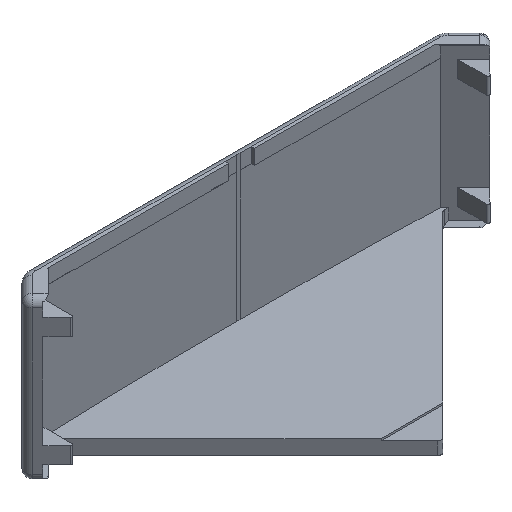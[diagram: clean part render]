
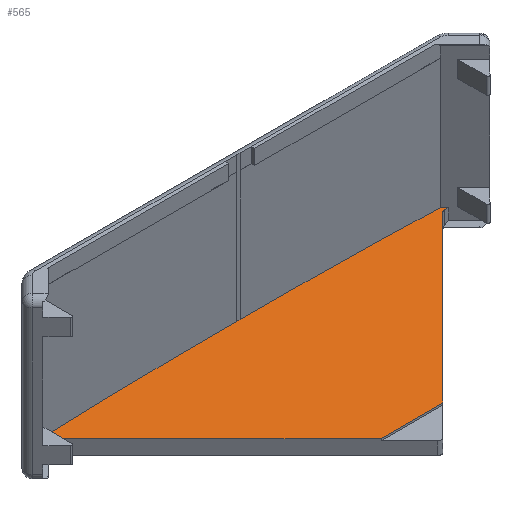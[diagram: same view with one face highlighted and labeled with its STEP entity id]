
A CAD part, isometric view. The second image highlights one B-rep face of the part: STEP entity #565.
In plain terms, the highlighted planar face has unit normal (0, 0, 1).
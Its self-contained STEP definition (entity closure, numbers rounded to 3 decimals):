
#40 = CARTESIAN_POINT ( 'NONE',  ( -53.243, 0., -17.5 ) ) ;
#55 = VECTOR ( 'NONE', #1867, 1000. ) ;
#95 = VECTOR ( 'NONE', #260, 1000. ) ;
#134 = CIRCLE ( 'NONE', #1599, 1563.085 ) ;
#143 = VERTEX_POINT ( 'NONE', #2162 ) ;
#146 = ORIENTED_EDGE ( 'NONE', *, *, #444, .F. ) ;
#156 = VECTOR ( 'NONE', #1252, 1000. ) ;
#161 = CARTESIAN_POINT ( 'NONE',  ( 0.5, 2., -17.5 ) ) ;
#168 = CARTESIAN_POINT ( 'NONE',  ( 63.128, -45., -17.5 ) ) ;
#178 = DIRECTION ( 'NONE',  ( -1., 0., 0. ) ) ;
#197 = CIRCLE ( 'NONE', #1273, 1563.085 ) ;
#209 = EDGE_CURVE ( 'NONE', #1057, #2259, #267, .T. ) ;
#215 = LINE ( 'NONE', #1357, #95 ) ;
#218 = VERTEX_POINT ( 'NONE', #1110 ) ;
#260 = DIRECTION ( 'NONE',  ( -0.707, -0.707, 0. ) ) ;
#267 = LINE ( 'NONE', #168, #845 ) ;
#310 = AXIS2_PLACEMENT_3D ( 'NONE', #562, #1851, #2207 ) ;
#324 = DIRECTION ( 'NONE',  ( 0.707, 0.707, 0. ) ) ;
#368 = CIRCLE ( 'NONE', #310, 1. ) ;
#409 = EDGE_CURVE ( 'NONE', #143, #1217, #134, .T. ) ;
#436 = DIRECTION ( 'NONE',  ( 1., 0., 0. ) ) ;
#444 = EDGE_CURVE ( 'NONE', #950, #2263, #197, .T. ) ;
#454 = CARTESIAN_POINT ( 'NONE',  ( 8.828, -45., -17.5 ) ) ;
#458 = CIRCLE ( 'NONE', #2155, 1. ) ;
#462 = ORIENTED_EDGE ( 'NONE', *, *, #2291, .T. ) ;
#504 = VECTOR ( 'NONE', #2297, 1000. ) ;
#507 = CARTESIAN_POINT ( 'NONE',  ( 55.3, 0., -17.5 ) ) ;
#514 = CARTESIAN_POINT ( 'NONE',  ( -54.3, 0., -17.5 ) ) ;
#562 = CARTESIAN_POINT ( 'NONE',  ( 54.243, -1., -17.5 ) ) ;
#565 = ADVANCED_FACE ( 'NONE', ( #1288 ), #1748, .F. ) ;
#570 = DIRECTION ( 'NONE',  ( 0., 0., -1. ) ) ;
#577 = EDGE_CURVE ( 'NONE', #2263, #1640, #1494, .T. ) ;
#580 = ORIENTED_EDGE ( 'NONE', *, *, #1382, .T. ) ;
#645 = LINE ( 'NONE', #1965, #156 ) ;
#650 = AXIS2_PLACEMENT_3D ( 'NONE', #1394, #1009, #662 ) ;
#662 = DIRECTION ( 'NONE',  ( -1., 0., 0. ) ) ;
#667 = CARTESIAN_POINT ( 'NONE',  ( 55.3, 0., -17.5 ) ) ;
#695 = CARTESIAN_POINT ( 'NONE',  ( 8.828, -45., -17.5 ) ) ;
#703 = LINE ( 'NONE', #695, #959 ) ;
#713 = ORIENTED_EDGE ( 'NONE', *, *, #209, .F. ) ;
#721 = EDGE_CURVE ( 'NONE', #1057, #1369, #703, .T. ) ;
#806 = EDGE_CURVE ( 'NONE', #1499, #1416, #458, .T. ) ;
#845 = VECTOR ( 'NONE', #178, 1000. ) ;
#847 = ORIENTED_EDGE ( 'NONE', *, *, #1182, .F. ) ;
#918 = ORIENTED_EDGE ( 'NONE', *, *, #1738, .F. ) ;
#924 = CARTESIAN_POINT ( 'NONE',  ( 53.536, -0.293, -17.5 ) ) ;
#937 = CARTESIAN_POINT ( 'NONE',  ( -52.536, -0.293, -17.5 ) ) ;
#950 = VERTEX_POINT ( 'NONE', #2250 ) ;
#959 = VECTOR ( 'NONE', #324, 1000. ) ;
#985 = LINE ( 'NONE', #161, #504 ) ;
#989 = DIRECTION ( 'NONE',  ( -1., 0., 0. ) ) ;
#1009 = DIRECTION ( 'NONE',  ( 0., 0., -1. ) ) ;
#1031 = ORIENTED_EDGE ( 'NONE', *, *, #721, .T. ) ;
#1057 = VERTEX_POINT ( 'NONE', #454 ) ;
#1110 = CARTESIAN_POINT ( 'NONE',  ( 54.243, 0., -17.5 ) ) ;
#1179 = CARTESIAN_POINT ( 'NONE',  ( 0., -1561.085, -17.5 ) ) ;
#1182 = EDGE_CURVE ( 'NONE', #143, #950, #985, .T. ) ;
#1217 = VERTEX_POINT ( 'NONE', #1434 ) ;
#1252 = DIRECTION ( 'NONE',  ( -1., 0., 0. ) ) ;
#1273 = AXIS2_PLACEMENT_3D ( 'NONE', #2104, #1735, #436 ) ;
#1283 = VECTOR ( 'NONE', #1985, 1000. ) ;
#1288 = FACE_OUTER_BOUND ( 'NONE', #1443, .T. ) ;
#1301 = ORIENTED_EDGE ( 'NONE', *, *, #2198, .F. ) ;
#1304 = EDGE_CURVE ( 'NONE', #1482, #1499, #1403, .T. ) ;
#1357 = CARTESIAN_POINT ( 'NONE',  ( -54.3, 0., -17.5 ) ) ;
#1369 = VERTEX_POINT ( 'NONE', #924 ) ;
#1382 = EDGE_CURVE ( 'NONE', #1369, #218, #368, .T. ) ;
#1394 = CARTESIAN_POINT ( 'NONE',  ( -7.828, -60., -17.5 ) ) ;
#1403 = LINE ( 'NONE', #514, #1283 ) ;
#1416 = VERTEX_POINT ( 'NONE', #937 ) ;
#1434 = CARTESIAN_POINT ( 'NONE',  ( -53.206, 1.094, -17.5 ) ) ;
#1443 = EDGE_LOOP ( 'NONE', ( #713, #1031, #580, #1301, #1672, #146, #847, #2317, #462, #1897, #1711, #918 ) ) ;
#1482 = VERTEX_POINT ( 'NONE', #2241 ) ;
#1494 = LINE ( 'NONE', #667, #1634 ) ;
#1499 = VERTEX_POINT ( 'NONE', #40 ) ;
#1599 = AXIS2_PLACEMENT_3D ( 'NONE', #1179, #1901, #989 ) ;
#1634 = VECTOR ( 'NONE', #2305, 1000. ) ;
#1640 = VERTEX_POINT ( 'NONE', #507 ) ;
#1647 = CARTESIAN_POINT ( 'NONE',  ( -53.243, -1., -17.5 ) ) ;
#1672 = ORIENTED_EDGE ( 'NONE', *, *, #577, .F. ) ;
#1684 = CARTESIAN_POINT ( 'NONE',  ( -7.828, -45., -17.5 ) ) ;
#1711 = ORIENTED_EDGE ( 'NONE', *, *, #806, .T. ) ;
#1735 = DIRECTION ( 'NONE',  ( 0., 0., -1. ) ) ;
#1738 = EDGE_CURVE ( 'NONE', #2259, #1416, #2194, .T. ) ;
#1748 = PLANE ( 'NONE',  #650 ) ;
#1851 = DIRECTION ( 'NONE',  ( 0., 0., -1. ) ) ;
#1867 = DIRECTION ( 'NONE',  ( -0.707, 0.707, 0. ) ) ;
#1897 = ORIENTED_EDGE ( 'NONE', *, *, #1304, .T. ) ;
#1901 = DIRECTION ( 'NONE',  ( 0., 0., 1. ) ) ;
#1905 = CARTESIAN_POINT ( 'NONE',  ( 54.206, 1.094, -17.5 ) ) ;
#1965 = CARTESIAN_POINT ( 'NONE',  ( 55.3, 0., -17.5 ) ) ;
#1985 = DIRECTION ( 'NONE',  ( 1., 0., 0. ) ) ;
#2104 = CARTESIAN_POINT ( 'NONE',  ( 1., -1561.085, -17.5 ) ) ;
#2155 = AXIS2_PLACEMENT_3D ( 'NONE', #1647, #570, #2189 ) ;
#2162 = CARTESIAN_POINT ( 'NONE',  ( 0., 2., -17.5 ) ) ;
#2189 = DIRECTION ( 'NONE',  ( -1., 0., 0. ) ) ;
#2194 = LINE ( 'NONE', #2224, #55 ) ;
#2198 = EDGE_CURVE ( 'NONE', #1640, #218, #645, .T. ) ;
#2207 = DIRECTION ( 'NONE',  ( -1., 0., 0. ) ) ;
#2224 = CARTESIAN_POINT ( 'NONE',  ( -7.828, -45., -17.5 ) ) ;
#2241 = CARTESIAN_POINT ( 'NONE',  ( -54.3, 0., -17.5 ) ) ;
#2250 = CARTESIAN_POINT ( 'NONE',  ( 1., 2., -17.5 ) ) ;
#2259 = VERTEX_POINT ( 'NONE', #1684 ) ;
#2263 = VERTEX_POINT ( 'NONE', #1905 ) ;
#2291 = EDGE_CURVE ( 'NONE', #1217, #1482, #215, .T. ) ;
#2297 = DIRECTION ( 'NONE',  ( 1., 0., 0. ) ) ;
#2305 = DIRECTION ( 'NONE',  ( 0.707, -0.707, 0. ) ) ;
#2317 = ORIENTED_EDGE ( 'NONE', *, *, #409, .T. ) ;
